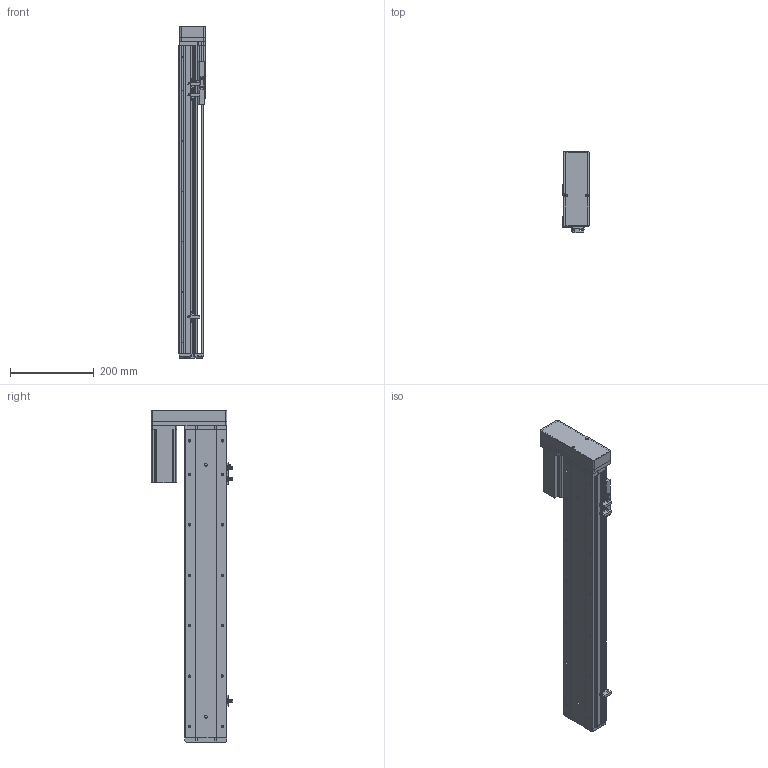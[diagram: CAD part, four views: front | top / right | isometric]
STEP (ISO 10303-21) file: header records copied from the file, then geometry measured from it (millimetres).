
FILE_DESCRIPTION (( 'STEP AP214' ), '1' );
FILE_NAME ('KSD100S-S550-ML-CM.STEP', '2019-08-30T06:12:30', ( '微软用户' ), ( '微软中国' ), 'SwSTEP 2.0', 'SolidWorks 2014', '' );
FILE_SCHEMA (( 'AUTOMOTIVE_DESIGN' ));
Length unit declared in the file: millimetre
Products named in the file (11): U倰嫖萇EEㄜSX672; 覜茼え100遵圉猾敕; 100宽防尘板丝杆550行程; 100遵鎮湛假蚾啣; 100宽滚珠螺姆安装板半封闭; 100遵傷啣; 100宽底板半封闭丝杆550行程; KSD100S-S550-ML-CM; 悵誘欶酘衵殏; 台达ECMA－C20604AS伺服电机; 100宽马达安装板连板左右折丝杆
Assembly tree (12 placements, depth 2):
  KSD100S-S550-ML-CM
    100宽底板半封闭丝杆550行程
    100遵傷啣
    100宽滚珠螺姆安装板半封闭
    100遵鎮湛假蚾啣
    100宽防尘板丝杆550行程
    覜茼え100遵圉猾敕
    U倰嫖萇EEㄜSX672  x3
    100宽马达安装板连板左右折丝杆
    台达ECMA－C20604AS伺服电机
    悵誘欶酘衵殏
Bounding box: 62 x 193.7 x 790.5 mm (x, y, z)
Volume: 2091458.2 mm3; surface area: 660694.4 mm2
Topology: 13 solids, 13 shells, 1241 faces, 3488 edges, 2211 vertices
Faces by surface type: cylinder 606, plane 504, cone 131
Entity records: 42837 total; most frequent: CARTESIAN_POINT 8169, DIRECTION 5863, ORIENTED_EDGE 5620, EDGE_CURVE 2810, AXIS2_PLACEMENT_3D 2133, VERTEX_POINT 1835, VECTOR 1597, LINE 1597
